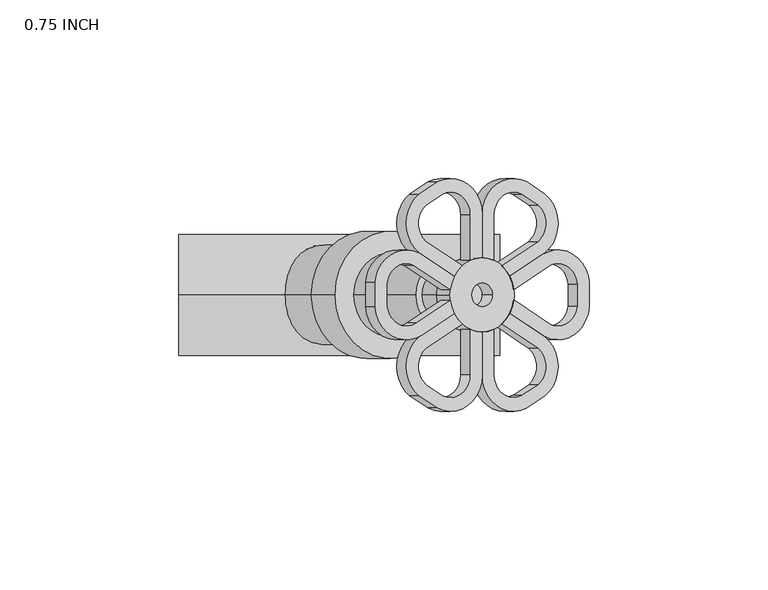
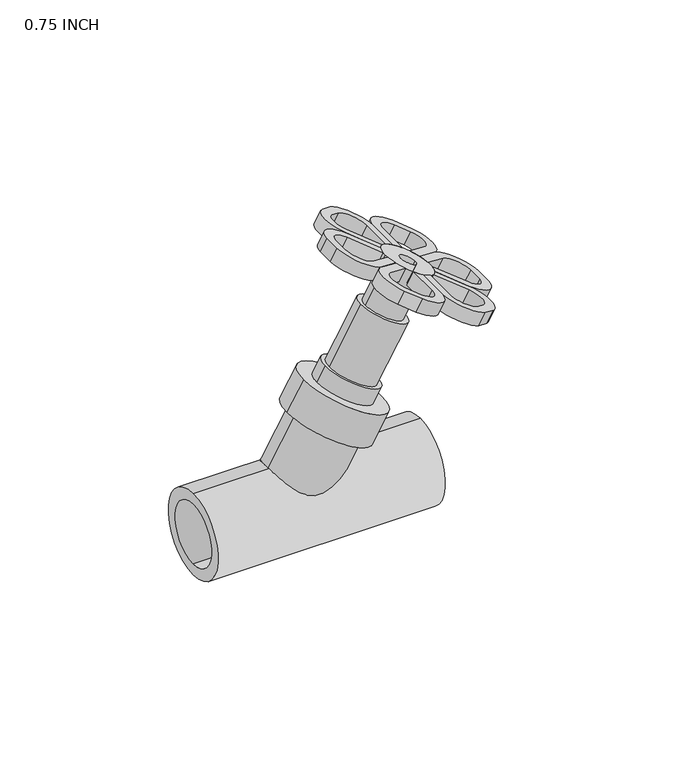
"""IFC4 building model written with IfcOpenShell, lengths in millimetres: valve geometry, Aquatherm - Inclined Valve without drain : 0.75 INCH."""

from ifc_helpers import new_model, si_unit, point, frame, frame_2d, origin, origin_2d, place, context, project, spatial, polyline, circle_curve, trimmed, segment, composite_curve, outline, extrude, source, transform, mapped, element, save
from ifc_brep_helpers import plane_surface, cylinder_surface, revolved_surface, advanced_brep


def valve_0_75_inch_5365706e(model_context):
    return source(origin(), model_context, "Body", "SolidModel", [
        advanced_brep(
        [(114.5402275, 10.5951948, 70.7865852), (127.673244, 2.812243, 63.2042345), (127.6933625, -4.0695455, 63.1926191), (115.3276595, -12.3087434, 70.331961), (105.5382614, -5.7824779, 75.9838727), (106.6315816, -2.111949, 75.352644), (116.8175611, -8.902602, 69.471766), (124.3952492, -3.6900946, 65.0967857), (124.4112835, 2.4387005, 65.0875283), (116.1900059, 7.295638, 69.8340852), (106.6189846, 0.9149571, 75.3599169), (105.5106894, 4.5755028, 75.9997914), (117.2072275, 10.5951948, 75.4059647), (108.1776894, 4.5755028, 80.6191709), (109.2859846, 0.9149571, 79.9792964), (118.8570059, 7.295638, 74.4534647), (127.0567944, 2.4362397, 69.7193145), (127.077063, -3.691799, 69.7076124), (119.4845611, -8.902602, 74.0911455), (109.2985816, -2.111949, 79.9720235), (108.2052614, -5.7824779, 80.6032522), (117.9946595, -12.3087434, 74.9513405), (130.3455487, -4.0678412, 67.8205514), (130.3617331, 2.8147039, 67.8112073)],
        [
            (0, 1, circle_curve(frame((118.9321929, 1.8112639, 68.2508827), z_axis=(-0.49999999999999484, 0.0, -0.8660254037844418), x_axis=(0.4330127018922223, -0.866025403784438, -0.24999999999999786)), 10.1428098)),
            (1, 2, circle_curve(frame((97.7058937, -0.6194603, 80.5058923), z_axis=(-0.49999999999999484, 0.0, -0.8660254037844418), x_axis=(0.4330127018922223, -0.866025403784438, -0.24999999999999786)), 34.798)),
            (2, 3, circle_curve(frame((118.9378972, -3.0622214, 68.2475894), z_axis=(-0.49999999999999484, 0.0, -0.8660254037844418), x_axis=(0.4330127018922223, -0.866025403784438, -0.24999999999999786)), 10.1428098)),
            (3, 4),
            (4, 5, circle_curve(frame((97.7058937, -0.6194603, 80.5058923), z_axis=(0.49999999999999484, 0.0, 0.8660254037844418), x_axis=(0.41622412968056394, 0.8769321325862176, -0.2403071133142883)), 10.414)),
            (5, 6),
            (6, 7, circle_curve(frame((118.9378972, -3.0622214, 68.2475894), z_axis=(0.49999999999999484, 0.0, 0.8660254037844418), x_axis=(0.4330127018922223, -0.866025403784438, -0.24999999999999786)), 6.3328098)),
            (7, 8, circle_curve(frame((97.7058937, -0.6194603, 80.5058923), z_axis=(0.49999999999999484, 0.0, 0.8660254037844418), x_axis=(0.4330127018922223, -0.866025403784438, -0.24999999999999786)), 30.988)),
            (8, 9, circle_curve(frame((118.9321929, 1.8112639, 68.2508827), z_axis=(0.49999999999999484, 0.0, 0.8660254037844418), x_axis=(0.4330127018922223, -0.866025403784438, -0.24999999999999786)), 6.3328098)),
            (9, 10),
            (10, 11, circle_curve(frame((97.7001894, -0.6314972, 80.5091856), z_axis=(0.49999999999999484, 0.0, 0.8660254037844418), x_axis=(0.4330127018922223, -0.866025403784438, -0.24999999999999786)), 10.414)),
            (11, 0),
            (12, 13),
            (13, 14, circle_curve(frame((100.3671894, -0.6314972, 85.1285651), z_axis=(-0.49999999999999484, 0.0, -0.8660254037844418), x_axis=(0.4330127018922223, -0.866025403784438, -0.24999999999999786)), 10.414)),
            (14, 15),
            (15, 16, circle_curve(frame((121.5991929, 1.8112639, 72.8702622), z_axis=(-0.49999999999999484, 0.0, -0.8660254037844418), x_axis=(0.4330127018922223, -0.866025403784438, -0.24999999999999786)), 6.3328098)),
            (16, 17, circle_curve(frame((100.3728937, -0.6194603, 85.1252718), z_axis=(-0.49999999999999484, 0.0, -0.8660254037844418), x_axis=(0.4330127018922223, -0.866025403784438, -0.24999999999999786)), 30.988)),
            (17, 18, circle_curve(frame((121.6048972, -3.0622214, 72.8669689), z_axis=(-0.49999999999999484, 0.0, -0.8660254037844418), x_axis=(0.4330127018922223, -0.866025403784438, -0.24999999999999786)), 6.3328098)),
            (18, 19),
            (19, 20, circle_curve(frame((100.3728937, -0.6194603, 85.1252718), z_axis=(-0.49999999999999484, 0.0, -0.8660254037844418), x_axis=(0.41622412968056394, 0.8769321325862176, -0.2403071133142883)), 10.414)),
            (20, 21),
            (21, 22, circle_curve(frame((121.6048972, -3.0622214, 72.8669689), z_axis=(0.49999999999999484, 0.0, 0.8660254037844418), x_axis=(0.4330127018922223, -0.866025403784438, -0.24999999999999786)), 10.1428098)),
            (22, 23, circle_curve(frame((100.3728937, -0.6194603, 85.1252718), z_axis=(0.49999999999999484, 0.0, 0.8660254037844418), x_axis=(0.4330127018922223, -0.866025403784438, -0.24999999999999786)), 34.798)),
            (23, 12, circle_curve(frame((121.5991929, 1.8112639, 72.8702622), z_axis=(0.49999999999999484, 0.0, 0.8660254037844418), x_axis=(0.4330127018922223, -0.866025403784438, -0.24999999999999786)), 10.1428098)),
            (11, 13),
            (12, 0),
            (10, 14),
            (9, 15),
            (8, 16),
            (7, 17),
            (6, 18),
            (5, 19),
            (4, 20),
            (3, 21),
            (2, 22),
            (1, 23),
        ],
        [
            plane_surface(frame((123.3241584, -6.9726671, 65.7151803), z_axis=(-0.4999999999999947, 0.0, -0.8660254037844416), x_axis=(-0.7500000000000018, -0.5000000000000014, 0.43301270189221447))),
            plane_surface(frame((125.9911584, -6.9726671, 70.3345598), z_axis=(0.4999999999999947, 0.0, 0.8660254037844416), x_axis=(0.7500000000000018, 0.5000000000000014, -0.43301270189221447))),
            plane_surface(frame((105.5106894, 4.5755028, 75.9997914), z_axis=(-0.43301270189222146, 0.8660254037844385, 0.24999999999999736), x_axis=(0.49999999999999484, 0.0, 0.8660254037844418))),
            revolved_surface(polyline([(104.87658372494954, -9.650285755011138, 82.52506518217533), (102.2095836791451, -9.650285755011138, 77.90568559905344)]), (100.3671894, -0.6314972, 85.1285651), (0.49999999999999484, 0.0, 0.8660254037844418)),
            plane_surface(frame((116.1900059, 7.295638, 69.8340852), z_axis=(0.43301270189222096, -0.8660254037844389, -0.24999999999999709), x_axis=(0.49999999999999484, 0.0, 0.8660254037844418))),
            revolved_surface(polyline([(124.34138002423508, -3.6731102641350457, 71.2870598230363), (121.67437998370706, -3.6731102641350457, 66.66768024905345)]), (121.5991929, 1.8112639, 72.8702622), (0.49999999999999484, 0.0, 0.8660254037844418)),
            revolved_surface(polyline([(113.79109130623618, -27.455855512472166, 77.37827180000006), (111.12409130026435, -27.455855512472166, 72.7588922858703)]), (100.3728937, -0.6194603, 85.1252718), (0.49999999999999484, 0.0, 0.8660254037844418)),
            revolved_surface(polyline([(124.34708428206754, -8.546595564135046, 71.28376645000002), (121.68008426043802, -8.546595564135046, 66.66438690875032)]), (121.6048972, -3.0622214, 72.8669689), (0.49999999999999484, 0.0, 0.8660254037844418)),
            plane_surface(frame((106.6315816, -2.111949, 75.352644), z_axis=(0.4330127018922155, 0.8660254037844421, -0.2499999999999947), x_axis=(0.49999999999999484, 0.0, 0.8660254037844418))),
            revolved_surface(polyline([(104.70745179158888, 8.51291092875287, 82.62271353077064), (102.0404517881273, 8.51291092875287, 78.00333402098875)]), (100.3728937, -0.6194603, 85.1252718), (0.49999999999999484, 0.0, 0.8660254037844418)),
            plane_surface(frame((115.3276595, -12.3087434, 70.331961), z_axis=(-0.43301270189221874, -0.8660254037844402, 0.24999999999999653), x_axis=(0.49999999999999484, 0.0, 0.8660254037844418))),
            cylinder_surface(frame((121.6048972, -3.0622214, 72.8669689), z_axis=(-0.49999999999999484, 0.0, -0.8660254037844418), x_axis=(0.4330127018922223, -0.866025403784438, -0.24999999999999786)), 10.1428098),
            cylinder_surface(frame((100.3728937, -0.6194603, 85.1252718), z_axis=(-0.49999999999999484, 0.0, -0.8660254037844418), x_axis=(0.4330127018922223, -0.866025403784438, -0.24999999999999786)), 34.798),
            cylinder_surface(frame((121.5991929, 1.8112639, 72.8702622), z_axis=(-0.49999999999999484, 0.0, -0.8660254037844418), x_axis=(0.4330127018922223, -0.866025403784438, -0.24999999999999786)), 10.1428098),
        ],
        [
            (0, [[1, 2, 3, 4, 5, 6, 7, 8, 9, 10, 11, 12]]),
            (1, [[13, 14, 15, 16, 17, 18, 19, 20, 21, 22, 23, 24]]),
            (2, [[-12, 25, -13, 26]]),
            (3, [[-11, 27, -14, -25]]),
            (4, [[-10, 28, -15, -27]]),
            (5, [[-9, 29, -16, -28]]),
            (6, [[-8, 30, -17, -29]]),
            (7, [[-7, 31, -18, -30]]),
            (8, [[-6, 32, -19, -31]]),
            (9, [[-5, 33, -20, -32]]),
            (10, [[-4, 34, -21, -33]]),
            (11, [[-3, 35, -22, -34]]),
            (12, [[-2, 36, -23, -35]]),
            (13, [[-1, -26, -24, -36]]),
        ],
    ),
        advanced_brep(
        [(80.8601514, -11.8581892, 90.2317861), (67.7271349, -4.0752375, 97.8141367), (67.7070164, 2.8065511, 97.8257522), (80.0727194, 11.0457489, 90.6864102), (89.8621175, 4.5194835, 85.0344986), (88.7687973, 0.8489546, 85.6657273), (78.5828178, 7.6396076, 91.5466053), (71.0051297, 2.4271002, 95.9215856), (70.9890953, -3.7016949, 95.930843), (79.210373, -8.5586324, 91.1842861), (88.7813943, -2.1779516, 85.6584544), (89.8896894, -5.8384972, 85.0185799), (83.5271514, -11.8581892, 94.8511656), (92.5566894, -5.8384972, 89.6379594), (91.4483943, -2.1779516, 90.2778339), (81.877373, -8.5586324, 95.8036656), (73.6775845, -3.6992341, 100.5378157), (73.6573159, 2.4288045, 100.5495178), (81.2498178, 7.6396076, 96.1659848), (91.4357973, 0.8489546, 90.2851068), (92.5291175, 4.5194835, 89.6538781), (82.7397194, 11.0457489, 95.3057897), (70.3888302, 2.8048467, 102.4365789), (70.3726458, -4.0776983, 102.445923)],
        [
            (0, 1, circle_curve(frame((76.468186, -3.0742583, 92.7674886), z_axis=(-0.49999999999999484, 0.0, -0.8660254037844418), x_axis=(-0.4330127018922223, 0.866025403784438, 0.24999999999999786)), 10.1428098)),
            (1, 2, circle_curve(frame((97.6944852, -0.6435341, 80.512479), z_axis=(-0.49999999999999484, 0.0, -0.8660254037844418), x_axis=(-0.4330127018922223, 0.866025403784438, 0.24999999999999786)), 34.798)),
            (2, 3, circle_curve(frame((76.4624817, 1.7992269, 92.7707819), z_axis=(-0.49999999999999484, 0.0, -0.8660254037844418), x_axis=(-0.4330127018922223, 0.866025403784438, 0.24999999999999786)), 10.1428098)),
            (3, 4),
            (4, 5, circle_curve(frame((97.6944852, -0.6435341, 80.512479), z_axis=(0.49999999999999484, 0.0, 0.8660254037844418), x_axis=(-0.41622412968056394, -0.8769321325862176, 0.2403071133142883)), 10.414)),
            (5, 6),
            (6, 7, circle_curve(frame((76.4624817, 1.7992269, 92.7707819), z_axis=(0.49999999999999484, 0.0, 0.8660254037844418), x_axis=(-0.4330127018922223, 0.866025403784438, 0.24999999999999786)), 6.3328098)),
            (7, 8, circle_curve(frame((97.6944852, -0.6435341, 80.512479), z_axis=(0.49999999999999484, 0.0, 0.8660254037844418), x_axis=(-0.4330127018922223, 0.866025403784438, 0.24999999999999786)), 30.988)),
            (8, 9, circle_curve(frame((76.468186, -3.0742583, 92.7674886), z_axis=(0.49999999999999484, 0.0, 0.8660254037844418), x_axis=(-0.4330127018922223, 0.866025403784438, 0.24999999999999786)), 6.3328098)),
            (9, 10),
            (10, 11, circle_curve(frame((97.7001894, -0.6314972, 80.5091856), z_axis=(0.49999999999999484, 0.0, 0.8660254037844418), x_axis=(-0.4330127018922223, 0.866025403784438, 0.24999999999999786)), 10.414)),
            (11, 0),
            (12, 13),
            (13, 14, circle_curve(frame((100.3671894, -0.6314972, 85.1285651), z_axis=(-0.49999999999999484, 0.0, -0.8660254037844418), x_axis=(-0.4330127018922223, 0.866025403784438, 0.24999999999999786)), 10.414)),
            (14, 15),
            (15, 16, circle_curve(frame((79.135186, -3.0742583, 97.3868681), z_axis=(-0.49999999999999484, 0.0, -0.8660254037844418), x_axis=(-0.4330127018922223, 0.866025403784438, 0.24999999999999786)), 6.3328098)),
            (16, 17, circle_curve(frame((100.3614852, -0.6435341, 85.1318585), z_axis=(-0.49999999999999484, 0.0, -0.8660254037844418), x_axis=(-0.4330127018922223, 0.866025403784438, 0.24999999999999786)), 30.988)),
            (17, 18, circle_curve(frame((79.1294817, 1.7992269, 97.3901614), z_axis=(-0.49999999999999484, 0.0, -0.8660254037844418), x_axis=(-0.4330127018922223, 0.866025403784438, 0.24999999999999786)), 6.3328098)),
            (18, 19),
            (19, 20, circle_curve(frame((100.3614852, -0.6435341, 85.1318585), z_axis=(-0.49999999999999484, 0.0, -0.8660254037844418), x_axis=(-0.41622412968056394, -0.8769321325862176, 0.2403071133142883)), 10.414)),
            (20, 21),
            (21, 22, circle_curve(frame((79.1294817, 1.7992269, 97.3901614), z_axis=(0.49999999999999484, 0.0, 0.8660254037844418), x_axis=(-0.4330127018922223, 0.866025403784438, 0.24999999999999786)), 10.1428098)),
            (22, 23, circle_curve(frame((100.3614852, -0.6435341, 85.1318585), z_axis=(0.49999999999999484, 0.0, 0.8660254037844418), x_axis=(-0.4330127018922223, 0.866025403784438, 0.24999999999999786)), 34.798)),
            (23, 12, circle_curve(frame((79.135186, -3.0742583, 97.3868681), z_axis=(0.49999999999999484, 0.0, 0.8660254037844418), x_axis=(-0.4330127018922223, 0.866025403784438, 0.24999999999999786)), 10.1428098)),
            (0, 12),
            (23, 1),
            (22, 2),
            (21, 3),
            (20, 4),
            (19, 5),
            (18, 6),
            (17, 7),
            (16, 8),
            (15, 9),
            (14, 10),
            (13, 11),
        ],
        [
            plane_surface(frame((72.0762205, 5.7096726, 95.303191), z_axis=(-0.4999999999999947, 0.0, -0.8660254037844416), x_axis=(0.7500000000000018, 0.5000000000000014, -0.43301270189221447))),
            plane_surface(frame((74.7432205, 5.7096726, 99.9225705), z_axis=(0.4999999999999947, 0.0, 0.8660254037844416), x_axis=(-0.7500000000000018, -0.5000000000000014, 0.43301270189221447))),
            cylinder_surface(frame((79.135186, -3.0742583, 97.3868681), z_axis=(-0.49999999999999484, 0.0, -0.8660254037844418), x_axis=(-0.4330127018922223, 0.866025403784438, 0.24999999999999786)), 10.1428098),
            cylinder_surface(frame((100.3614852, -0.6435341, 85.1318585), z_axis=(-0.49999999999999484, 0.0, -0.8660254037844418), x_axis=(-0.4330127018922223, 0.866025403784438, 0.24999999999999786)), 34.798),
            cylinder_surface(frame((79.1294817, 1.7992269, 97.3901614), z_axis=(-0.49999999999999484, 0.0, -0.8660254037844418), x_axis=(-0.4330127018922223, 0.866025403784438, 0.24999999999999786)), 10.1428098),
            plane_surface(frame((80.0727194, 11.0457489, 90.6864102), z_axis=(0.43301270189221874, 0.8660254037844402, -0.24999999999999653), x_axis=(0.49999999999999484, 0.0, 0.8660254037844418))),
            revolved_surface(polyline([(96.02692711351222, -9.77590532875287, 87.63441677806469), (93.35992711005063, -9.77590532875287, 83.0150372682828)]), (100.3614852, -0.6435341, 85.1318585), (0.49999999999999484, 0.0, 0.8660254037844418)),
            plane_surface(frame((88.7687973, 0.8489546, 85.6657273), z_axis=(-0.43301270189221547, -0.8660254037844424, 0.24999999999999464), x_axis=(0.49999999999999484, 0.0, 0.8660254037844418))),
            revolved_surface(polyline([(76.38729462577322, 7.283601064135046, 98.97336386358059), (73.72029461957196, 7.283601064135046, 94.35398434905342)]), (79.1294817, 1.7992269, 97.3901614), (0.49999999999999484, 0.0, 0.8660254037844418)),
            revolved_surface(polyline([(86.94328759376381, 26.192861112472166, 92.87885849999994), (84.27628757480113, 26.192861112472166, 88.25947896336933)]), (100.3614852, -0.6435341, 85.1318585), (0.49999999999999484, 0.0, 0.8660254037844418)),
            revolved_surface(polyline([(76.39299891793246, 2.410115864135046, 98.97007054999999), (73.72599887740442, 2.410115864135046, 94.35069097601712)]), (79.135186, -3.0742583, 97.3868681), (0.49999999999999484, 0.0, 0.8660254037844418)),
            plane_surface(frame((79.210373, -8.5586324, 91.1842861), z_axis=(-0.43301270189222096, 0.8660254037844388, 0.24999999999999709), x_axis=(0.49999999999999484, 0.0, 0.8660254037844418))),
            revolved_surface(polyline([(95.85779514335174, 8.387291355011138, 87.73206513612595), (93.19079512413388, 8.387291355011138, 83.1126855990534)]), (100.3671894, -0.6314972, 85.1285651), (0.49999999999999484, 0.0, 0.8660254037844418)),
            plane_surface(frame((89.8896894, -5.8384972, 85.0185799), z_axis=(0.43301270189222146, -0.8660254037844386, -0.24999999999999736), x_axis=(0.49999999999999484, 0.0, 0.8660254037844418))),
        ],
        [
            (0, [[1, 2, 3, 4, 5, 6, 7, 8, 9, 10, 11, 12]]),
            (1, [[13, 14, 15, 16, 17, 18, 19, 20, 21, 22, 23, 24]]),
            (2, [[-1, 25, -24, 26]]),
            (3, [[-2, -26, -23, 27]]),
            (4, [[-3, -27, -22, 28]]),
            (5, [[-4, -28, -21, 29]]),
            (6, [[-5, -29, -20, 30]]),
            (7, [[-6, -30, -19, 31]]),
            (8, [[-7, -31, -18, 32]]),
            (9, [[-8, -32, -17, 33]]),
            (10, [[-9, -33, -16, 34]]),
            (11, [[-10, -34, -15, 35]]),
            (12, [[-11, -35, -14, 36]]),
            (13, [[-12, -36, -13, -25]]),
        ],
    ),
        advanced_brep(
        [(97.7001894, 21.8218868, 80.5091856), (97.7001894, 9.7825028, 80.5091856), (94.4006327, 9.0605251, 82.4141856), (94.4006327, 21.8218868, 82.4141856), (86.6561896, 27.5919762, 86.8854419), (82.0500264, 24.5482255, 89.5448115), (81.938175, 14.350322, 89.6093889), (92.1241545, 7.559669, 83.7285109), (89.9179179, 4.6310844, 85.0022822), (80.1285198, 11.1573498, 90.6541938), (80.1337518, 27.6286901, 90.6511731), (85.2875684, 31.086147, 87.6756157), (100.3671894, 21.8218868, 85.1285651), (87.9634674, 31.0634274, 92.2898574), (82.7920667, 27.6426517, 95.275567), (82.7955198, 11.1573498, 95.2735733), (92.5849179, 4.6310844, 89.6216617), (94.7911545, 7.559669, 88.3478904), (84.605175, 14.350322, 94.2287684), (84.7257115, 24.5342638, 94.1591766), (89.3142907, 27.6146957, 91.5099592), (97.0676327, 21.8218868, 87.0335651), (97.0676327, 9.0605251, 87.0335651), (100.3671894, 9.7825028, 85.1285651)],
        [
            (0, 1),
            (1, 2, circle_curve(frame((97.7001894, -0.6314972, 80.5091856), z_axis=(0.49999999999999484, 0.0, 0.8660254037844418), x_axis=(-0.8660254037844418, 0.0, 0.49999999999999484)), 10.414)),
            (2, 3),
            (3, 4, circle_curve(frame((88.9162585, 21.8218868, 85.5805905), z_axis=(0.49999999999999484, 0.0, 0.8660254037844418), x_axis=(-0.8660254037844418, 0.0, 0.49999999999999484)), 6.3328098)),
            (4, 5, circle_curve(frame((97.706365, -0.6197745, 80.5056202), z_axis=(0.49999999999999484, 0.0, 0.8660254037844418), x_axis=(-0.8660254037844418, 0.0, 0.49999999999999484)), 30.988)),
            (5, 6, circle_curve(frame((85.2582925, 19.3908484, 87.6925182), z_axis=(0.49999999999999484, 0.0, 0.8660254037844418), x_axis=(-0.8660254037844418, 0.0, 0.49999999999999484)), 6.3328098)),
            (6, 7),
            (7, 8, circle_curve(frame((97.706365, -0.6197745, 80.5056202), z_axis=(0.4999999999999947, 0.0, 0.8660254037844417), x_axis=(0.4495870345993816, 0.8546901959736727, -0.2595691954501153)), 10.414)),
            (8, 9),
            (9, 10, circle_curve(frame((85.2582925, 19.3908484, 87.6925182), z_axis=(-0.49999999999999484, 0.0, -0.8660254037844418), x_axis=(-0.8660254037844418, 0.0, 0.49999999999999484)), 10.1428098)),
            (10, 11, circle_curve(frame((97.706365, -0.6197745, 80.5056202), z_axis=(-0.49999999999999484, 0.0, -0.8660254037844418), x_axis=(-0.8660254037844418, 0.0, 0.49999999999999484)), 34.798)),
            (11, 0, circle_curve(frame((88.9162585, 21.8218868, 85.5805905), z_axis=(-0.49999999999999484, 0.0, -0.8660254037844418), x_axis=(-0.8660254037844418, 0.0, 0.49999999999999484)), 10.1428098)),
            (12, 13, circle_curve(frame((91.5832585, 21.8218868, 90.19997), z_axis=(0.49999999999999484, 0.0, 0.8660254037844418), x_axis=(-0.8660254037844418, 0.0, 0.49999999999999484)), 10.1428098)),
            (13, 14, circle_curve(frame((100.373365, -0.6197745, 85.1249997), z_axis=(0.49999999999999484, 0.0, 0.8660254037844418), x_axis=(-0.8660254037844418, 0.0, 0.49999999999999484)), 34.798)),
            (14, 15, circle_curve(frame((87.9252925, 19.3908484, 92.3118977), z_axis=(0.49999999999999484, 0.0, 0.8660254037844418), x_axis=(-0.8660254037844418, 0.0, 0.49999999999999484)), 10.1428098)),
            (15, 16),
            (16, 17, circle_curve(frame((100.373365, -0.6197745, 85.1249997), z_axis=(-0.4999999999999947, 0.0, -0.8660254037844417), x_axis=(0.4495870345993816, 0.8546901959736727, -0.2595691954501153)), 10.414)),
            (17, 18),
            (18, 19, circle_curve(frame((87.9252925, 19.3908484, 92.3118977), z_axis=(-0.49999999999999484, 0.0, -0.8660254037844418), x_axis=(-0.8660254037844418, 0.0, 0.49999999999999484)), 6.3328098)),
            (19, 20, circle_curve(frame((100.373365, -0.6197745, 85.1249997), z_axis=(-0.49999999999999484, 0.0, -0.8660254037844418), x_axis=(-0.8660254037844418, 0.0, 0.49999999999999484)), 30.988)),
            (20, 21, circle_curve(frame((91.5832585, 21.8218868, 90.19997), z_axis=(-0.49999999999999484, 0.0, -0.8660254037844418), x_axis=(-0.8660254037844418, 0.0, 0.49999999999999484)), 6.3328098)),
            (21, 22),
            (22, 23, circle_curve(frame((100.3671894, -0.6314972, 85.1285651), z_axis=(-0.49999999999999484, 0.0, -0.8660254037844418), x_axis=(-0.8660254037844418, 0.0, 0.49999999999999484)), 10.414)),
            (23, 12),
            (11, 13),
            (12, 0),
            (10, 14),
            (9, 15),
            (8, 16),
            (7, 17),
            (6, 18),
            (5, 19),
            (4, 20),
            (3, 21),
            (2, 22),
            (1, 23),
        ],
        [
            plane_surface(frame((97.7001894, 7.6235028, 80.5091856), z_axis=(-0.49999999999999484, 0.0, -0.8660254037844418), x_axis=(0.0, -1.0, 0.0))),
            plane_surface(frame((100.3671894, 7.6235028, 85.1285651), z_axis=(0.49999999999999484, 0.0, 0.8660254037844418), x_axis=(0.0, 1.0, 0.0))),
            cylinder_surface(frame((91.5832585, 21.8218868, 90.19997), z_axis=(-0.49999999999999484, 0.0, -0.8660254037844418), x_axis=(-0.8660254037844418, 0.0, 0.49999999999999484)), 10.1428098),
            cylinder_surface(frame((100.373365, -0.6197745, 85.1249997), z_axis=(-0.49999999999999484, 0.0, -0.8660254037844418), x_axis=(-0.8660254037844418, 0.0, 0.49999999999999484)), 34.798),
            cylinder_surface(frame((87.9252925, 19.3908484, 92.3118977), z_axis=(-0.49999999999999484, 0.0, -0.8660254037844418), x_axis=(-0.8660254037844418, 0.0, 0.49999999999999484)), 10.1428098),
            plane_surface(frame((89.9179179, 4.6310844, 85.0022822), z_axis=(-0.433012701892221, -0.8660254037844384, 0.24999999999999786), x_axis=(0.49999999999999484, 0.0, 0.8660254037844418))),
            revolved_surface(polyline([(105.05536437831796, 8.280969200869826, 82.4218460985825), (102.38836436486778, 8.280969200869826, 77.80246657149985)]), (100.373365, -0.6197745, 85.1249997), (0.49999999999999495, 0.0, 0.866025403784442)),
            plane_surface(frame((81.938175, 14.350322, 89.6093889), z_axis=(0.4330127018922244, 0.8660254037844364, -0.2499999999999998), x_axis=(0.49999999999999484, 0.0, 0.8660254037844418))),
            revolved_surface(polyline([(82.44091833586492, 19.3908484, 95.47830259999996), (79.77391832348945, 19.3908484, 90.85892307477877)]), (87.9252925, 19.3908484, 92.3118977), (0.49999999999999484, 0.0, 0.8660254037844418)),
            revolved_surface(polyline([(73.53696978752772, -0.6197745, 100.61899969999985), (70.86996977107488, -0.6197745, 95.99962016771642)]), (100.373365, -0.6197745, 85.1249997), (0.49999999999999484, 0.0, 0.8660254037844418)),
            revolved_surface(polyline([(86.09888434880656, 21.8218868, 93.36637492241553), (83.43188433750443, 21.8218868, 88.74699539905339)]), (91.5832585, 21.8218868, 90.19997), (0.49999999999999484, 0.0, 0.8660254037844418)),
            plane_surface(frame((94.4006327, 9.0605251, 82.4141856), z_axis=(-0.8660254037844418, 0.0, 0.49999999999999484), x_axis=(0.49999999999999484, 0.0, 0.8660254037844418))),
            revolved_surface(polyline([(91.3484008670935, -0.6314972, 90.3355651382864), (88.6814008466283, -0.6314972, 85.71618559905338)]), (100.3671894, -0.6314972, 85.1285651), (0.49999999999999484, 0.0, 0.8660254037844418)),
            plane_surface(frame((97.7001894, 21.8218868, 80.5091856), z_axis=(0.8660254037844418, 0.0, -0.49999999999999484), x_axis=(0.49999999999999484, 0.0, 0.8660254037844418))),
        ],
        [
            (0, [[1, 2, 3, 4, 5, 6, 7, 8, 9, 10, 11, 12]]),
            (1, [[13, 14, 15, 16, 17, 18, 19, 20, 21, 22, 23, 24]]),
            (2, [[-12, 25, -13, 26]]),
            (3, [[-11, 27, -14, -25]]),
            (4, [[-10, 28, -15, -27]]),
            (5, [[-9, 29, -16, -28]]),
            (6, [[-8, 30, -17, -29]]),
            (7, [[-7, 31, -18, -30]]),
            (8, [[-6, 32, -19, -31]]),
            (9, [[-5, 33, -20, -32]]),
            (10, [[-4, 34, -21, -33]]),
            (11, [[-3, 35, -22, -34]]),
            (12, [[-2, 36, -23, -35]]),
            (13, [[-1, -26, -24, -36]]),
        ],
    ),
        advanced_brep(
        [(97.7001894, 21.8218868, 80.5091856), (110.1039115, 31.0634274, 73.3478934), (115.2753122, 27.6426517, 70.3621838), (115.2718591, 11.1573498, 70.3641774), (105.4824609, 4.6310844, 76.0160891), (103.2762244, 7.559669, 77.2898604), (113.4622039, 14.350322, 71.4089824), (113.3416674, 24.5342638, 71.4785741), (108.7530882, 27.6146957, 74.1277916), (100.9997462, 21.8218868, 78.6041856), (100.9997462, 9.0605251, 78.6041856), (97.7001894, 9.7825028, 80.5091856), (100.3671894, 21.8218868, 85.1285651), (100.3671894, 9.7825028, 85.1285651), (103.6667462, 9.0605251, 83.2235651), (103.6667462, 21.8218868, 83.2235651), (111.4111892, 27.5919762, 78.7523089), (116.0173525, 24.5482255, 76.0929393), (116.1292039, 14.350322, 76.0283619), (105.9432244, 7.559669, 81.9092399), (108.1494609, 4.6310844, 80.6354686), (117.9388591, 11.1573498, 74.9835569), (117.933627, 27.6286901, 74.9865777), (112.7798105, 31.086147, 77.9621351)],
        [
            (0, 1, circle_curve(frame((106.4841204, 21.8218868, 75.4377807), z_axis=(-0.49999999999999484, 0.0, -0.8660254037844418), x_axis=(0.8660254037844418, 0.0, -0.49999999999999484)), 10.1428098)),
            (1, 2, circle_curve(frame((97.6940139, -0.6197745, 80.5127511), z_axis=(-0.49999999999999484, 0.0, -0.8660254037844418), x_axis=(0.8660254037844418, 0.0, -0.49999999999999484)), 34.798)),
            (2, 3, circle_curve(frame((110.1420864, 19.3908484, 73.3258531), z_axis=(-0.49999999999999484, 0.0, -0.8660254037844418), x_axis=(0.8660254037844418, 0.0, -0.49999999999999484)), 10.1428098)),
            (3, 4),
            (4, 5, circle_curve(frame((97.6940139, -0.6197745, 80.5127511), z_axis=(0.4999999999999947, 0.0, 0.8660254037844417), x_axis=(-0.4495870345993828, 0.854690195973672, 0.2595691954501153)), 10.414)),
            (5, 6),
            (6, 7, circle_curve(frame((110.1420864, 19.3908484, 73.3258531), z_axis=(0.49999999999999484, 0.0, 0.8660254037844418), x_axis=(0.8660254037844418, 0.0, -0.49999999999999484)), 6.3328098)),
            (7, 8, circle_curve(frame((97.6940139, -0.6197745, 80.5127511), z_axis=(0.49999999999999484, 0.0, 0.8660254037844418), x_axis=(0.8660254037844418, 0.0, -0.49999999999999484)), 30.988)),
            (8, 9, circle_curve(frame((106.4841204, 21.8218868, 75.4377807), z_axis=(0.49999999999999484, 0.0, 0.8660254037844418), x_axis=(0.8660254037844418, 0.0, -0.49999999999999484)), 6.3328098)),
            (9, 10),
            (10, 11, circle_curve(frame((97.7001894, -0.6314972, 80.5091856), z_axis=(0.49999999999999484, 0.0, 0.8660254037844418), x_axis=(0.8660254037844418, 0.0, -0.49999999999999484)), 10.414)),
            (11, 0),
            (12, 13),
            (13, 14, circle_curve(frame((100.3671894, -0.6314972, 85.1285651), z_axis=(-0.49999999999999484, 0.0, -0.8660254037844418), x_axis=(0.8660254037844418, 0.0, -0.49999999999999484)), 10.414)),
            (14, 15),
            (15, 16, circle_curve(frame((109.1511204, 21.8218868, 80.0571603), z_axis=(-0.49999999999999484, 0.0, -0.8660254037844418), x_axis=(0.8660254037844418, 0.0, -0.49999999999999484)), 6.3328098)),
            (16, 17, circle_curve(frame((100.3610139, -0.6197745, 85.1321306), z_axis=(-0.49999999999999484, 0.0, -0.8660254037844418), x_axis=(0.8660254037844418, 0.0, -0.49999999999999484)), 30.988)),
            (17, 18, circle_curve(frame((112.8090864, 19.3908484, 77.9452326), z_axis=(-0.49999999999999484, 0.0, -0.8660254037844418), x_axis=(0.8660254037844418, 0.0, -0.49999999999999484)), 6.3328098)),
            (18, 19),
            (19, 20, circle_curve(frame((100.3610139, -0.6197745, 85.1321306), z_axis=(-0.4999999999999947, 0.0, -0.8660254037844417), x_axis=(-0.4495870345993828, 0.854690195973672, 0.2595691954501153)), 10.414)),
            (20, 21),
            (21, 22, circle_curve(frame((112.8090864, 19.3908484, 77.9452326), z_axis=(0.49999999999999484, 0.0, 0.8660254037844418), x_axis=(0.8660254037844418, 0.0, -0.49999999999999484)), 10.1428098)),
            (22, 23, circle_curve(frame((100.3610139, -0.6197745, 85.1321306), z_axis=(0.49999999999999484, 0.0, 0.8660254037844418), x_axis=(0.8660254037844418, 0.0, -0.49999999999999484)), 34.798)),
            (23, 12, circle_curve(frame((109.1511204, 21.8218868, 80.0571603), z_axis=(0.49999999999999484, 0.0, 0.8660254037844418), x_axis=(0.8660254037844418, 0.0, -0.49999999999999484)), 10.1428098)),
            (11, 13),
            (12, 0),
            (10, 14),
            (9, 15),
            (8, 16),
            (7, 17),
            (6, 18),
            (5, 19),
            (4, 20),
            (3, 21),
            (2, 22),
            (1, 23),
        ],
        [
            plane_surface(frame((115.2680513, 21.8218868, 70.3663759), z_axis=(-0.49999999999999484, 0.0, -0.8660254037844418), x_axis=(0.0, -1.0, 0.0))),
            plane_surface(frame((117.9350513, 21.8218868, 74.9857554), z_axis=(0.49999999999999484, 0.0, 0.8660254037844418), x_axis=(0.0, 1.0, 0.0))),
            plane_surface(frame((97.7001894, 9.7825028, 80.5091856), z_axis=(-0.8660254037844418, 0.0, 0.49999999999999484), x_axis=(0.49999999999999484, 0.0, 0.8660254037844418))),
            revolved_surface(polyline([(109.38597795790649, -0.6314972, 79.92156510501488), (106.71897795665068, -0.6314972, 75.30218559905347)]), (100.3671894, -0.6314972, 85.1285651), (0.49999999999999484, 0.0, 0.8660254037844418)),
            plane_surface(frame((100.9997462, 21.8218868, 78.6041856), z_axis=(0.8660254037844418, 0.0, -0.49999999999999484), x_axis=(0.49999999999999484, 0.0, 0.8660254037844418))),
            revolved_surface(polyline([(114.63549456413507, 21.8218868, 76.89075540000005), (111.96849451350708, 21.8218868, 72.27137580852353)]), (109.1511204, 21.8218868, 80.0571603), (0.49999999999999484, 0.0, 0.8660254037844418)),
            revolved_surface(polyline([(127.19740911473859, -0.6197745, 69.6381306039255), (124.5304090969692, -0.6197745, 65.01875106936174)]), (100.3610139, -0.6197745, 85.1321306), (0.49999999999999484, 0.0, 0.8660254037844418)),
            revolved_surface(polyline([(118.29346057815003, 19.3908484, 74.77882772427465), (115.62646054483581, 19.3908484, 70.15944816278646)]), (112.8090864, 19.3908484, 77.9452326), (0.49999999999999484, 0.0, 0.8660254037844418)),
            plane_surface(frame((103.2762244, 7.559669, 77.2898604), z_axis=(-0.4330127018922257, 0.8660254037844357, 0.24999999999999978), x_axis=(0.49999999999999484, 0.0, 0.8660254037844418))),
            revolved_surface(polyline([(95.67901453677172, 8.28096920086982, 87.83528422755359), (93.01201451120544, 8.28096920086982, 83.21590467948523)]), (100.3610139, -0.6197745, 85.1321306), (0.49999999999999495, 0.0, 0.866025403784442)),
            plane_surface(frame((115.2718591, 11.1573498, 70.3641774), z_axis=(0.4330127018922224, -0.8660254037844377, -0.24999999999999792), x_axis=(0.49999999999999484, 0.0, 0.8660254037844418))),
            cylinder_surface(frame((112.8090864, 19.3908484, 77.9452326), z_axis=(-0.49999999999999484, 0.0, -0.8660254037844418), x_axis=(0.8660254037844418, 0.0, -0.49999999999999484)), 10.1428098),
            cylinder_surface(frame((100.3610139, -0.6197745, 85.1321306), z_axis=(-0.49999999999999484, 0.0, -0.8660254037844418), x_axis=(0.8660254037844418, 0.0, -0.49999999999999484)), 34.798),
            cylinder_surface(frame((109.1511204, 21.8218868, 80.0571603), z_axis=(-0.49999999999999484, 0.0, -0.8660254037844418), x_axis=(0.8660254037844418, 0.0, -0.49999999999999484)), 10.1428098),
        ],
        [
            (0, [[1, 2, 3, 4, 5, 6, 7, 8, 9, 10, 11, 12]]),
            (1, [[13, 14, 15, 16, 17, 18, 19, 20, 21, 22, 23, 24]]),
            (2, [[-12, 25, -13, 26]]),
            (3, [[-11, 27, -14, -25]]),
            (4, [[-10, 28, -15, -27]]),
            (5, [[-9, 29, -16, -28]]),
            (6, [[-8, 30, -17, -29]]),
            (7, [[-7, 31, -18, -30]]),
            (8, [[-6, 32, -19, -31]]),
            (9, [[-5, 33, -20, -32]]),
            (10, [[-4, 34, -21, -33]]),
            (11, [[-3, 35, -22, -34]]),
            (12, [[-2, 36, -23, -35]]),
            (13, [[-1, -26, -24, -36]]),
        ],
    ),
        advanced_brep(
        [(97.7001894, -23.0848812, 80.5091856), (85.2964674, -32.3264219, 87.6704779), (80.1250667, -28.9056461, 90.6561875), (80.1285198, -12.4203442, 90.6541938), (89.9179179, -5.8940788, 85.0022822), (92.1241545, -8.8226635, 83.7285109), (81.938175, -15.6133165, 89.6093889), (82.0587115, -25.7972583, 89.5397971), (86.6472907, -28.8776902, 86.8905797), (94.4006327, -23.0848812, 82.4141856), (94.4006327, -10.3235195, 82.4141856), (97.7001894, -11.0454972, 80.5091856), (100.3671894, -23.0848812, 85.1285651), (100.3671894, -11.0454972, 85.1285651), (97.0676327, -10.3235195, 87.0335651), (97.0676327, -23.0848812, 87.0335651), (89.3231896, -28.8549706, 91.5048214), (84.7170264, -25.8112199, 94.164191), (84.605175, -15.6133165, 94.2287684), (94.7911545, -8.8226635, 88.3478904), (92.5849179, -5.8940788, 89.6216617), (82.7955198, -12.4203442, 95.2735733), (82.8007518, -28.8916845, 95.2705526), (87.9545684, -32.3491414, 92.2949952)],
        [
            (0, 1, circle_curve(frame((88.9162585, -23.0848812, 85.5805905), z_axis=(-0.49999999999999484, 0.0, -0.8660254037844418), x_axis=(-0.8660254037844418, 0.0, 0.49999999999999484)), 10.1428098)),
            (1, 2, circle_curve(frame((97.706365, -0.6432199, 80.5056202), z_axis=(-0.49999999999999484, 0.0, -0.8660254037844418), x_axis=(-0.8660254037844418, 0.0, 0.49999999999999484)), 34.798)),
            (2, 3, circle_curve(frame((85.2582925, -20.6538429, 87.6925182), z_axis=(-0.49999999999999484, 0.0, -0.8660254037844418), x_axis=(-0.8660254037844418, 0.0, 0.49999999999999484)), 10.1428098)),
            (3, 4),
            (4, 5, circle_curve(frame((97.706365, -0.6432199, 80.5056202), z_axis=(0.4999999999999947, 0.0, 0.8660254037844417), x_axis=(0.4495870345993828, -0.854690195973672, -0.2595691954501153)), 10.414)),
            (5, 6),
            (6, 7, circle_curve(frame((85.2582925, -20.6538429, 87.6925182), z_axis=(0.49999999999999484, 0.0, 0.8660254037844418), x_axis=(-0.8660254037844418, 0.0, 0.49999999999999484)), 6.3328098)),
            (7, 8, circle_curve(frame((97.706365, -0.6432199, 80.5056202), z_axis=(0.49999999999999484, 0.0, 0.8660254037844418), x_axis=(-0.8660254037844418, 0.0, 0.49999999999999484)), 30.988)),
            (8, 9, circle_curve(frame((88.9162585, -23.0848812, 85.5805905), z_axis=(0.49999999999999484, 0.0, 0.8660254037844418), x_axis=(-0.8660254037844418, 0.0, 0.49999999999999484)), 6.3328098)),
            (9, 10),
            (10, 11, circle_curve(frame((97.7001894, -0.6314972, 80.5091856), z_axis=(0.49999999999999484, 0.0, 0.8660254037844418), x_axis=(-0.8660254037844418, 0.0, 0.49999999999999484)), 10.414)),
            (11, 0),
            (12, 13),
            (13, 14, circle_curve(frame((100.3671894, -0.6314972, 85.1285651), z_axis=(-0.49999999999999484, 0.0, -0.8660254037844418), x_axis=(-0.8660254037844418, 0.0, 0.49999999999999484)), 10.414)),
            (14, 15),
            (15, 16, circle_curve(frame((91.5832585, -23.0848812, 90.19997), z_axis=(-0.49999999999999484, 0.0, -0.8660254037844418), x_axis=(-0.8660254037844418, 0.0, 0.49999999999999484)), 6.3328098)),
            (16, 17, circle_curve(frame((100.373365, -0.6432199, 85.1249997), z_axis=(-0.49999999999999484, 0.0, -0.8660254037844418), x_axis=(-0.8660254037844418, 0.0, 0.49999999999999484)), 30.988)),
            (17, 18, circle_curve(frame((87.9252925, -20.6538429, 92.3118977), z_axis=(-0.49999999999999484, 0.0, -0.8660254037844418), x_axis=(-0.8660254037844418, 0.0, 0.49999999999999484)), 6.3328098)),
            (18, 19),
            (19, 20, circle_curve(frame((100.373365, -0.6432199, 85.1249997), z_axis=(-0.4999999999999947, 0.0, -0.8660254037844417), x_axis=(0.4495870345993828, -0.854690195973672, -0.2595691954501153)), 10.414)),
            (20, 21),
            (21, 22, circle_curve(frame((87.9252925, -20.6538429, 92.3118977), z_axis=(0.49999999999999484, 0.0, 0.8660254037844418), x_axis=(-0.8660254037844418, 0.0, 0.49999999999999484)), 10.1428098)),
            (22, 23, circle_curve(frame((100.373365, -0.6432199, 85.1249997), z_axis=(0.49999999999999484, 0.0, 0.8660254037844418), x_axis=(-0.8660254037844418, 0.0, 0.49999999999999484)), 34.798)),
            (23, 12, circle_curve(frame((91.5832585, -23.0848812, 90.19997), z_axis=(0.49999999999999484, 0.0, 0.8660254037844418), x_axis=(-0.8660254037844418, 0.0, 0.49999999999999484)), 10.1428098)),
            (0, 12),
            (23, 1),
            (22, 2),
            (21, 3),
            (20, 4),
            (19, 5),
            (18, 6),
            (17, 7),
            (16, 8),
            (15, 9),
            (14, 10),
            (13, 11),
        ],
        [
            plane_surface(frame((80.1323276, -23.0848812, 90.6519954), z_axis=(-0.49999999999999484, 0.0, -0.8660254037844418), x_axis=(0.0, 1.0, 0.0))),
            plane_surface(frame((82.7993276, -23.0848812, 95.2713749), z_axis=(0.49999999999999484, 0.0, 0.8660254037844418), x_axis=(0.0, -1.0, 0.0))),
            cylinder_surface(frame((91.5832585, -23.0848812, 90.19997), z_axis=(-0.49999999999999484, 0.0, -0.8660254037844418), x_axis=(-0.8660254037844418, 0.0, 0.49999999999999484)), 10.1428098),
            cylinder_surface(frame((100.373365, -0.6432199, 85.1249997), z_axis=(-0.49999999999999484, 0.0, -0.8660254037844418), x_axis=(-0.8660254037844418, 0.0, 0.49999999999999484)), 34.798),
            cylinder_surface(frame((87.9252925, -20.6538429, 92.3118977), z_axis=(-0.49999999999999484, 0.0, -0.8660254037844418), x_axis=(-0.8660254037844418, 0.0, 0.49999999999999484)), 10.1428098),
            plane_surface(frame((80.1285198, -12.4203442, 90.6541938), z_axis=(-0.4330127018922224, 0.8660254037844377, 0.24999999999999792), x_axis=(0.49999999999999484, 0.0, 0.8660254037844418))),
            revolved_surface(polyline([(105.05536437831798, -9.54396360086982, 82.4218460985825), (102.3883643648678, -9.54396360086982, 77.80246657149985)]), (100.373365, -0.6432199, 85.1249997), (0.49999999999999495, 0.0, 0.866025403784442)),
            plane_surface(frame((92.1241545, -8.8226635, 83.7285109), z_axis=(0.4330127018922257, -0.8660254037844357, -0.24999999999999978), x_axis=(0.49999999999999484, 0.0, 0.8660254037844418))),
            revolved_surface(polyline([(82.44091833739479, -20.6538429, 95.47830260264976), (79.77391831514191, -20.6538429, 90.85892306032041)]), (87.9252925, -20.6538429, 92.3118977), (0.49999999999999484, 0.0, 0.8660254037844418)),
            revolved_surface(polyline([(73.53696978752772, -0.6432199, 100.61899969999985), (70.86996976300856, -0.6432199, 95.99962015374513)]), (100.373365, -0.6432199, 85.1249997), (0.49999999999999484, 0.0, 0.8660254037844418)),
            revolved_surface(polyline([(86.09888434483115, -23.0848812, 93.3663749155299), (83.43188433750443, -23.0848812, 88.74699539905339)]), (91.5832585, -23.0848812, 90.19997), (0.49999999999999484, 0.0, 0.8660254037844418)),
            plane_surface(frame((94.4006327, -23.0848812, 82.4141856), z_axis=(-0.8660254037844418, 0.0, 0.49999999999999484), x_axis=(0.49999999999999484, 0.0, 0.8660254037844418))),
            revolved_surface(polyline([(91.3484008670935, -0.6314972, 90.3355651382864), (88.6814008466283, -0.6314972, 85.71618559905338)]), (100.3671894, -0.6314972, 85.1285651), (0.49999999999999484, 0.0, 0.8660254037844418)),
            plane_surface(frame((97.7001894, -11.0454972, 80.5091856), z_axis=(0.8660254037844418, 0.0, -0.49999999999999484), x_axis=(0.49999999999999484, 0.0, 0.8660254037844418))),
        ],
        [
            (0, [[1, 2, 3, 4, 5, 6, 7, 8, 9, 10, 11, 12]]),
            (1, [[13, 14, 15, 16, 17, 18, 19, 20, 21, 22, 23, 24]]),
            (2, [[-1, 25, -24, 26]]),
            (3, [[-2, -26, -23, 27]]),
            (4, [[-3, -27, -22, 28]]),
            (5, [[-4, -28, -21, 29]]),
            (6, [[-5, -29, -20, 30]]),
            (7, [[-6, -30, -19, 31]]),
            (8, [[-7, -31, -18, 32]]),
            (9, [[-8, -32, -17, 33]]),
            (10, [[-9, -33, -16, 34]]),
            (11, [[-10, -34, -15, 35]]),
            (12, [[-11, -35, -14, 36]]),
            (13, [[-12, -36, -13, -25]]),
        ],
    ),
        advanced_brep(
        [(97.7001894, -23.0848812, 80.5091856), (97.7001894, -11.0454972, 80.5091856), (100.9997462, -10.3235195, 78.6041856), (100.9997462, -23.0848812, 78.6041856), (108.7441892, -28.8549706, 74.1329294), (113.3503525, -25.8112199, 71.4735598), (113.4622039, -15.6133165, 71.4089824), (103.2762244, -8.8226635, 77.2898604), (105.4824609, -5.8940788, 76.0160891), (115.2718591, -12.4203442, 70.3641774), (115.266627, -28.8916845, 70.3671982), (110.1128105, -32.3491414, 73.3427556), (100.3671894, -23.0848812, 85.1285651), (112.7709115, -32.3264219, 77.9672729), (117.9423122, -28.9056461, 74.9815633), (117.9388591, -12.4203442, 74.9835569), (108.1494609, -5.8940788, 80.6354686), (105.9432244, -8.8226635, 81.9092399), (116.1292039, -15.6133165, 76.0283619), (116.0086674, -25.7972583, 76.0979537), (111.4200882, -28.8776902, 78.7471711), (103.6667462, -23.0848812, 83.2235651), (103.6667462, -10.3235195, 83.2235651), (100.3671894, -11.0454972, 85.1285651)],
        [
            (0, 1),
            (1, 2, circle_curve(frame((97.7001894, -0.6314972, 80.5091856), z_axis=(0.49999999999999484, 0.0, 0.8660254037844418), x_axis=(0.8660254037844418, 0.0, -0.49999999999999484)), 10.414)),
            (2, 3),
            (3, 4, circle_curve(frame((106.4841204, -23.0848812, 75.4377807), z_axis=(0.49999999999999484, 0.0, 0.8660254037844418), x_axis=(0.8660254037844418, 0.0, -0.49999999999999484)), 6.3328098)),
            (4, 5, circle_curve(frame((97.6940139, -0.6432199, 80.5127511), z_axis=(0.49999999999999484, 0.0, 0.8660254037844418), x_axis=(0.8660254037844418, 0.0, -0.49999999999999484)), 30.988)),
            (5, 6, circle_curve(frame((110.1420864, -20.6538429, 73.3258531), z_axis=(0.49999999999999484, 0.0, 0.8660254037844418), x_axis=(0.8660254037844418, 0.0, -0.49999999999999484)), 6.3328098)),
            (6, 7),
            (7, 8, circle_curve(frame((97.6940139, -0.6432199, 80.5127511), z_axis=(0.4999999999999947, 0.0, 0.8660254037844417), x_axis=(-0.4495870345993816, -0.8546901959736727, 0.2595691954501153)), 10.414)),
            (8, 9),
            (9, 10, circle_curve(frame((110.1420864, -20.6538429, 73.3258531), z_axis=(-0.49999999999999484, 0.0, -0.8660254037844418), x_axis=(0.8660254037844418, 0.0, -0.49999999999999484)), 10.1428098)),
            (10, 11, circle_curve(frame((97.6940139, -0.6432199, 80.5127511), z_axis=(-0.49999999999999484, 0.0, -0.8660254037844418), x_axis=(0.8660254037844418, 0.0, -0.49999999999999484)), 34.798)),
            (11, 0, circle_curve(frame((106.4841204, -23.0848812, 75.4377807), z_axis=(-0.49999999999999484, 0.0, -0.8660254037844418), x_axis=(0.8660254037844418, 0.0, -0.49999999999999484)), 10.1428098)),
            (12, 13, circle_curve(frame((109.1511204, -23.0848812, 80.0571603), z_axis=(0.49999999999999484, 0.0, 0.8660254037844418), x_axis=(0.8660254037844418, 0.0, -0.49999999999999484)), 10.1428098)),
            (13, 14, circle_curve(frame((100.3610139, -0.6432199, 85.1321306), z_axis=(0.49999999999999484, 0.0, 0.8660254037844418), x_axis=(0.8660254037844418, 0.0, -0.49999999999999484)), 34.798)),
            (14, 15, circle_curve(frame((112.8090864, -20.6538429, 77.9452326), z_axis=(0.49999999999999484, 0.0, 0.8660254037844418), x_axis=(0.8660254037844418, 0.0, -0.49999999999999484)), 10.1428098)),
            (15, 16),
            (16, 17, circle_curve(frame((100.3610139, -0.6432199, 85.1321306), z_axis=(-0.4999999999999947, 0.0, -0.8660254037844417), x_axis=(-0.4495870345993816, -0.8546901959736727, 0.2595691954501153)), 10.414)),
            (17, 18),
            (18, 19, circle_curve(frame((112.8090864, -20.6538429, 77.9452326), z_axis=(-0.49999999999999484, 0.0, -0.8660254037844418), x_axis=(0.8660254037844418, 0.0, -0.49999999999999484)), 6.3328098)),
            (19, 20, circle_curve(frame((100.3610139, -0.6432199, 85.1321306), z_axis=(-0.49999999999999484, 0.0, -0.8660254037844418), x_axis=(0.8660254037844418, 0.0, -0.49999999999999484)), 30.988)),
            (20, 21, circle_curve(frame((109.1511204, -23.0848812, 80.0571603), z_axis=(-0.49999999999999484, 0.0, -0.8660254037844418), x_axis=(0.8660254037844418, 0.0, -0.49999999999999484)), 6.3328098)),
            (21, 22),
            (22, 23, circle_curve(frame((100.3671894, -0.6314972, 85.1285651), z_axis=(-0.49999999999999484, 0.0, -0.8660254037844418), x_axis=(0.8660254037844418, 0.0, -0.49999999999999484)), 10.414)),
            (23, 12),
            (0, 12),
            (23, 1),
            (22, 2),
            (21, 3),
            (20, 4),
            (19, 5),
            (18, 6),
            (17, 7),
            (16, 8),
            (15, 9),
            (14, 10),
            (13, 11),
        ],
        [
            plane_surface(frame((97.7001894, -8.8864972, 80.5091856), z_axis=(-0.49999999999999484, 0.0, -0.8660254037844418), x_axis=(0.0, 1.0, 0.0))),
            plane_surface(frame((100.3671894, -8.8864972, 85.1285651), z_axis=(0.49999999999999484, 0.0, 0.8660254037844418), x_axis=(0.0, -1.0, 0.0))),
            plane_surface(frame((97.7001894, -23.0848812, 80.5091856), z_axis=(-0.8660254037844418, 0.0, 0.49999999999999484), x_axis=(0.49999999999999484, 0.0, 0.8660254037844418))),
            revolved_surface(polyline([(109.38597795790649, -0.6314972, 79.92156510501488), (106.71897795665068, -0.6314972, 75.30218559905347)]), (100.3671894, -0.6314972, 85.1285651), (0.49999999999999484, 0.0, 0.8660254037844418)),
            plane_surface(frame((100.9997462, -10.3235195, 78.6041856), z_axis=(0.8660254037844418, 0.0, -0.49999999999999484), x_axis=(0.49999999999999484, 0.0, 0.8660254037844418))),
            revolved_surface(polyline([(114.63549456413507, -23.0848812, 76.89075540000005), (111.96849451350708, -23.0848812, 72.27137580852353)]), (109.1511204, -23.0848812, 80.0571603), (0.49999999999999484, 0.0, 0.8660254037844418)),
            revolved_surface(polyline([(127.19740913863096, -0.6432199, 69.63813064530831), (124.53040910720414, -0.6432199, 65.01875108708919)]), (100.3610139, -0.6432199, 85.1321306), (0.49999999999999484, 0.0, 0.8660254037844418)),
            revolved_surface(polyline([(118.29346058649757, -20.6538429, 74.77882773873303), (115.62646056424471, -20.6538429, 70.15944819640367)]), (112.8090864, -20.6538429, 77.9452326), (0.49999999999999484, 0.0, 0.8660254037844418)),
            plane_surface(frame((113.4622039, -15.6133165, 71.4089824), z_axis=(-0.4330127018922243, -0.8660254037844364, 0.24999999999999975), x_axis=(0.49999999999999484, 0.0, 0.8660254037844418))),
            revolved_surface(polyline([(95.67901453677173, -9.543963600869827, 87.83528422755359), (93.01201451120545, -9.543963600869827, 83.21590467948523)]), (100.3610139, -0.6432199, 85.1321306), (0.49999999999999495, 0.0, 0.866025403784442)),
            plane_surface(frame((105.4824609, -5.8940788, 76.0160891), z_axis=(0.43301270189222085, 0.8660254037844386, -0.24999999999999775), x_axis=(0.49999999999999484, 0.0, 0.8660254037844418))),
            cylinder_surface(frame((112.8090864, -20.6538429, 77.9452326), z_axis=(-0.49999999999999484, 0.0, -0.8660254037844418), x_axis=(0.8660254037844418, 0.0, -0.49999999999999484)), 10.1428098),
            cylinder_surface(frame((100.3610139, -0.6432199, 85.1321306), z_axis=(-0.49999999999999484, 0.0, -0.8660254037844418), x_axis=(0.8660254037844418, 0.0, -0.49999999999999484)), 34.798),
            cylinder_surface(frame((109.1511204, -23.0848812, 80.0571603), z_axis=(-0.49999999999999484, 0.0, -0.8660254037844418), x_axis=(0.8660254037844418, 0.0, -0.49999999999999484)), 10.1428098),
        ],
        [
            (0, [[1, 2, 3, 4, 5, 6, 7, 8, 9, 10, 11, 12]]),
            (1, [[13, 14, 15, 16, 17, 18, 19, 20, 21, 22, 23, 24]]),
            (2, [[-1, 25, -24, 26]]),
            (3, [[-2, -26, -23, 27]]),
            (4, [[-3, -27, -22, 28]]),
            (5, [[-4, -28, -21, 29]]),
            (6, [[-5, -29, -20, 30]]),
            (7, [[-6, -30, -19, 31]]),
            (8, [[-7, -31, -18, 32]]),
            (9, [[-8, -32, -17, 33]]),
            (10, [[-9, -33, -16, 34]]),
            (11, [[-10, -34, -15, 35]]),
            (12, [[-11, -35, -14, 36]]),
            (13, [[-12, -36, -13, -25]]),
        ],
    ),
        extrude(outline(composite_curve([segment(trimmed(circle_curve(frame_2d((0.0, -10.414)), 10.414), [point((0.0, -20.828))], [point((0.0, 0.0))], False, "CARTESIAN"), True, "CONTINUOUS"), segment(trimmed(circle_curve(frame_2d((0.0, -10.414)), 10.414), [point((0.0, 0.0))], [point((0.0, -20.828))], False, "CARTESIAN"), True, "CONTINUOUS")], self_intersect=False), holes=[composite_curve([segment(trimmed(circle_curve(frame_2d((0.0, -10.414)), 3.302), [point((0.0, -13.716))], [point((0.0, -7.112))], True, "CARTESIAN"), True, "CONTINUOUS"), segment(trimmed(circle_curve(frame_2d((0.0, -10.414)), 3.302), [point((0.0, -7.112))], [point((0.0, -13.716))], True, "CARTESIAN"), True, "CONTINUOUS")], self_intersect=False)]), frame((105.702978, -0.6314972, 73.542422), z_axis=(0.49999999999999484, 0.0, 0.8660254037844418), x_axis=(0.0, -1.0, 0.0)), (0.0, 0.0, 1.0), 7.366),
        extrude(outline(composite_curve([segment(trimmed(circle_curve(origin_2d(), 7.874), [point((0.0, 7.8740001))], [point((0.0, -7.874))], False, "CARTESIAN"), True, "CONTINUOUS"), segment(trimmed(circle_curve(origin_2d(), 7.874), [point((0.0, -7.874))], [point((0.0, 7.8740001))], False, "CARTESIAN"), True, "CONTINUOUS")], self_intersect=False)), frame((90.4611894, -0.6314972, 67.9708698), z_axis=(0.4999999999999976, 0.0, 0.86602540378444), x_axis=(0.0, -1.0, 0.0)), (0.0, 0.0, 1.0), 14.478),
        extrude(outline(composite_curve([segment(trimmed(circle_curve(origin_2d(), 9.906), [point((0.0, 9.906))], [point((0.0, -9.906))], False, "CARTESIAN"), True, "CONTINUOUS"), segment(trimmed(circle_curve(origin_2d(), 9.906), [point((0.0, -9.906))], [point((0.0, 9.906))], False, "CARTESIAN"), True, "CONTINUOUS")], self_intersect=False)), frame((77.8881894, -0.6314972, 46.193795), z_axis=(0.4999999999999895, 0.0, 0.8660254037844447), x_axis=(0.0, -1.0, 0.0)), (0.0, 0.0, 1.0), 25.146),
        extrude(outline(composite_curve([segment(trimmed(circle_curve(origin_2d(), 11.684), [point((0.0, 11.6840001))], [point((0.0, -11.684))], False, "CARTESIAN"), True, "CONTINUOUS"), segment(trimmed(circle_curve(origin_2d(), 11.684), [point((0.0, -11.684))], [point((0.0, 11.6840001))], False, "CARTESIAN"), True, "CONTINUOUS")], self_intersect=False)), frame((74.5861894, -0.6314972, 40.4745633), z_axis=(0.4999999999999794, 0.0, 0.8660254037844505), x_axis=(0.0, -1.0, 0.0)), (0.0, 0.0, 1.0), 6.604),
        extrude(outline(composite_curve([segment(trimmed(circle_curve(origin_2d(), 17.78), [point((0.0, 17.78))], [point((0.0, -17.7799999))], False, "CARTESIAN"), True, "CONTINUOUS"), segment(trimmed(circle_curve(origin_2d(), 17.78), [point((0.0, -17.7799999))], [point((0.0, 17.78))], False, "CARTESIAN"), True, "CONTINUOUS")], self_intersect=False)), frame((67.9821894, -0.6314972, 29.0360997), z_axis=(0.49999999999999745, 0.0, 0.8660254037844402), x_axis=(0.0, -1.0, 0.0)), (0.0, 0.0, 1.0), 13.208),
        extrude(outline(composite_curve([segment(trimmed(circle_curve(frame_2d((-0.6314972, 0.0)), 17.018), [point((-0.6314972, 17.018))], [point((-0.6314972, -17.018))], False, "CARTESIAN"), True, "CONTINUOUS"), segment(trimmed(circle_curve(frame_2d((-0.6314972, 0.0)), 17.018), [point((-0.6314972, -17.018))], [point((-0.6314972, 17.018))], False, "CARTESIAN"), True, "CONTINUOUS")], self_intersect=False), holes=[composite_curve([segment(trimmed(circle_curve(frame_2d((-0.6314972, 0.0)), 12.446), [point((-0.6314972, 12.446))], [point((-0.6314972, -12.446))], True, "CARTESIAN"), True, "CONTINUOUS"), segment(trimmed(circle_curve(frame_2d((-0.6314972, 0.0)), 12.446), [point((-0.6314972, -12.446))], [point((-0.6314972, 12.446))], True, "CARTESIAN"), True, "CONTINUOUS")], self_intersect=False)]), frame((15.4041894, 0.0, 0.0), z_axis=(1.0, 0.0, 0.0), x_axis=(0.0, 1.0, 0.0)), (0.0, 0.0, 1.0), 89.916),
        extrude(outline(composite_curve([segment(trimmed(circle_curve(origin_2d(), 13.97), [point((0.0, 13.97))], [point((0.0, -13.9699999))], False, "CARTESIAN"), True, "CONTINUOUS"), segment(trimmed(circle_curve(origin_2d(), 13.97), [point((0.0, -13.9699999))], [point((0.0, 13.97))], False, "CARTESIAN"), True, "CONTINUOUS")], self_intersect=False)), frame((51.2181894, -0.6314972, 0.0), z_axis=(0.49999999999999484, 0.0, 0.8660254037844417), x_axis=(0.0, -1.0, 0.0)), (0.0, 0.0, 1.0), 33.528),
    ])


if __name__ == "__main__":
    model = new_model("IFC4")
    model_context = context("Model", 3, world=origin())
    ifc_project = project(units=[si_unit("LENGTHUNIT", "METRE", prefix="MILLI")], contexts=[model_context])
    site = spatial("IfcSite", under=ifc_project)
    building = spatial("IfcBuilding", under=site)
    placement = place(None, origin())
    valve_0_75_inch_shape = valve_0_75_inch_5365706e(model_context)
    element("IfcValve", 1, ObjectType="Aquatherm - Inclined Valve without drain : 0.75 INCH", at=placement, inside=building, context=model_context, shape_type="MappedRepresentation", body=[
        mapped(valve_0_75_inch_shape, transform((0.0, 0.0, 0.0), x_axis=(1.0, 0.0, 0.0), y_axis=(0.0, 1.0, 0.0), z_axis=(0.0, 0.0, 1.0))),
    ])
    save(model, "model.ifc")
